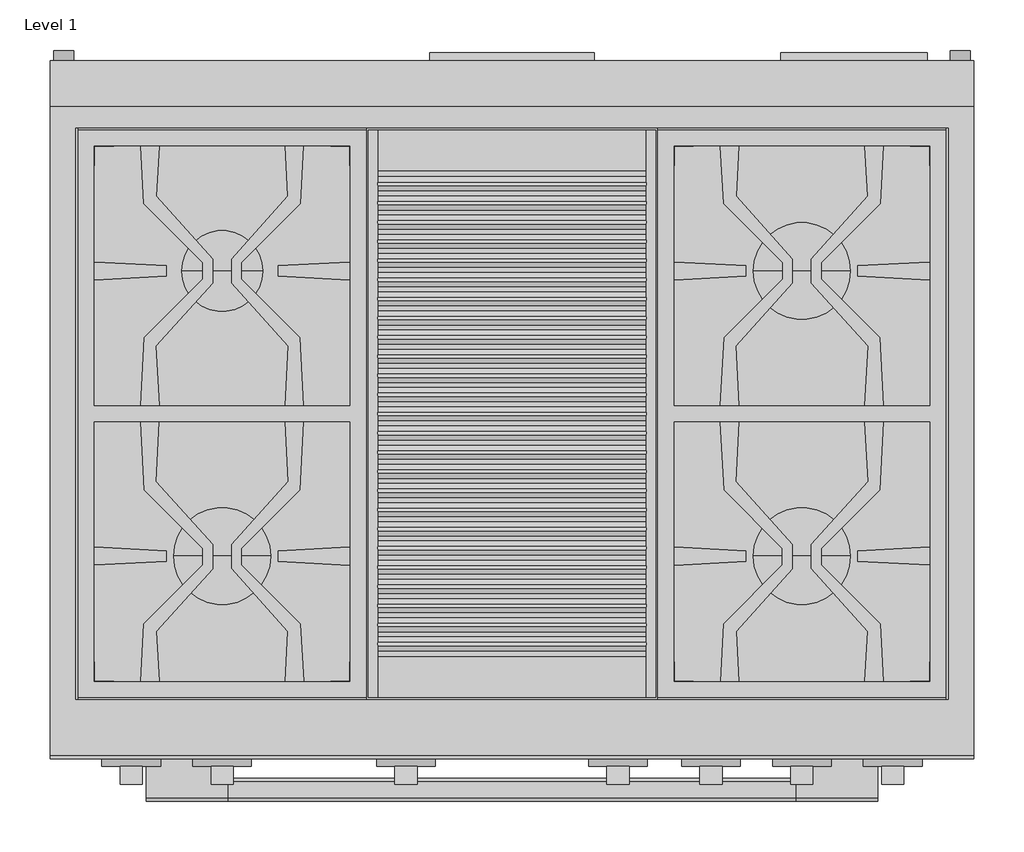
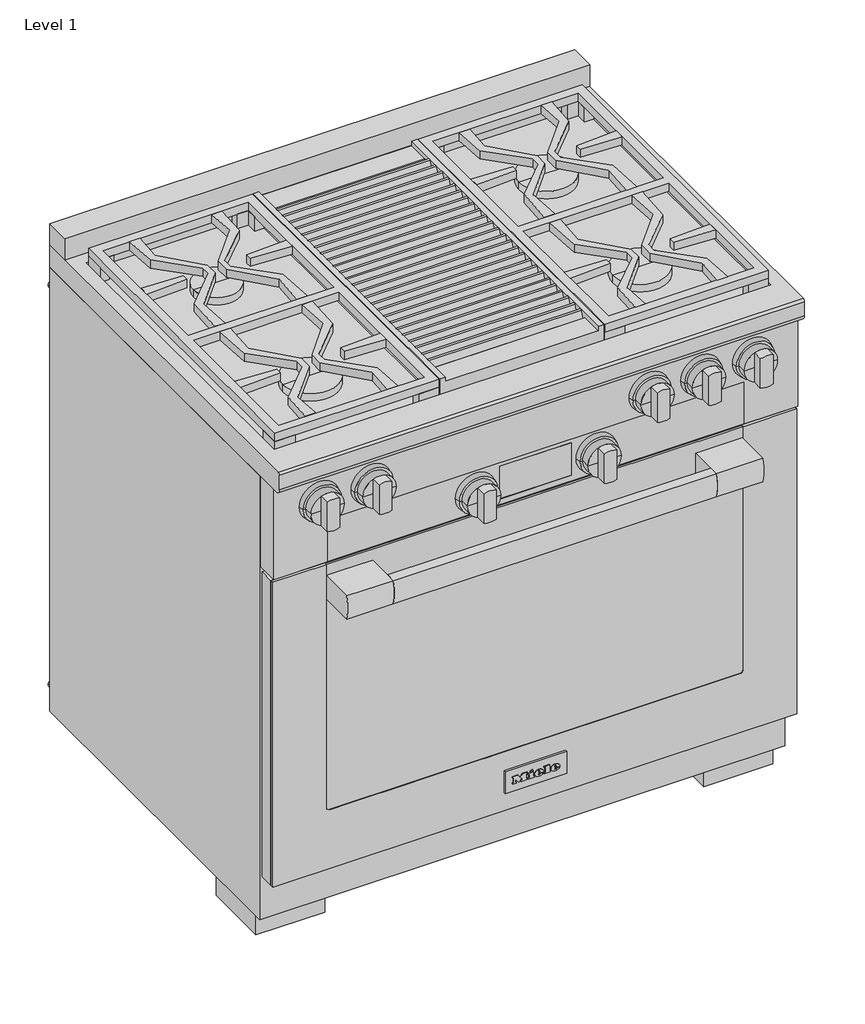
# One storey: 1 proxy.
"""IFC4 building model written with IfcOpenShell, lengths in millimetres."""

from ifc_helpers import new_model, si_unit, origin, place, context, project, spatial, transform, mapped, element, save
from components import specialty_equipment_83be52f8, specialty_equipment_633da77a

model = new_model("IFC4")

# Units and contexts
model_context = context("Model", 3, world=origin())
ifc_project = project(units=[si_unit("LENGTHUNIT", "METRE", prefix="MILLI")], contexts=[model_context])

# Site, building, storey
site = spatial("IfcSite", under=ifc_project)
building = spatial("IfcBuilding", under=site)
storey = spatial("IfcBuildingStorey", under=building, Name="Level 1", Elevation=0.0)

# Proxy
placement = place(None, origin())
specialty_equipment_shape = specialty_equipment_83be52f8(model_context)
specialty_equipment_2_shape = specialty_equipment_633da77a(model_context)
element("IfcBuildingElementProxy", 1, Name="11791450_USA_HR1135-3G_EDST-CLST : 25113581_USA_11791450_HR1135-3G_EDST-CLST", ObjectType="11791450_USA_HR1135-3G_EDST-CLST : 25113581_USA_11791450_HR1135-3G_EDST-CLST", at=placement, inside=storey, context=model_context, shape_type="MappedRepresentation", body=[
    mapped(specialty_equipment_shape, transform((0.0, 0.0, 0.0), x_axis=(1.0, 0.0, 0.0), y_axis=(0.0, 1.0, 0.0), z_axis=(0.0, 0.0, 1.0))),
    mapped(specialty_equipment_2_shape, transform((0.0, 0.0, 0.0), x_axis=(1.0, 0.0, 0.0), y_axis=(0.0, 1.0, 0.0), z_axis=(0.0, 0.0, 1.0))),
])

save(model, "model.ifc")
